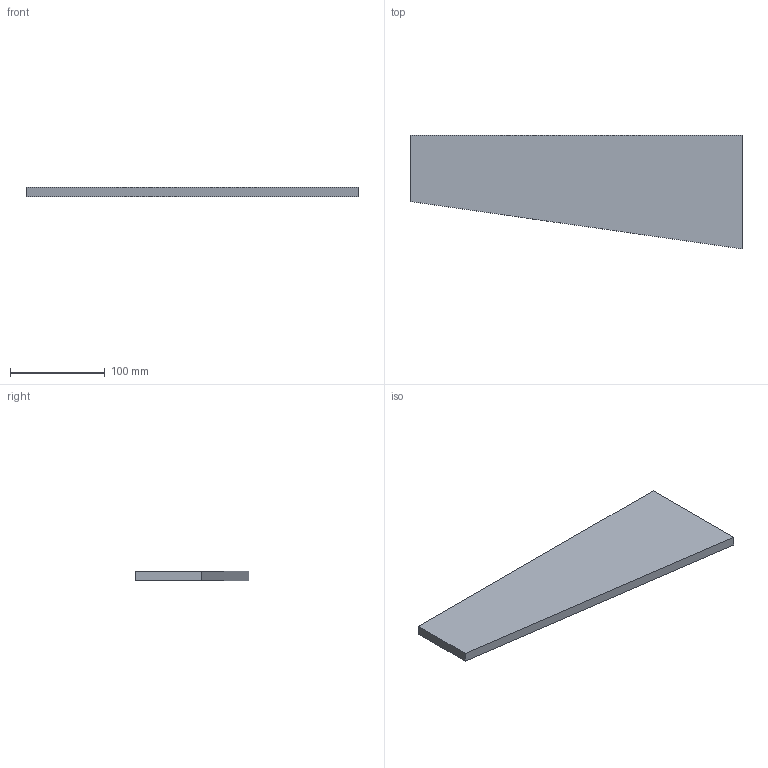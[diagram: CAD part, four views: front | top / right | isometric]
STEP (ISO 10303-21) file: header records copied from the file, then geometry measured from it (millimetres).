
FILE_DESCRIPTION (( 'STEP AP214' ), '1' );
FILE_NAME ('Legs.STEP', '2018-05-10T20:43:02', ( '' ), ( '' ), 'SwSTEP 2.0', 'SolidWorks 2015', '' );
FILE_SCHEMA (( 'AUTOMOTIVE_DESIGN' ));
Length unit declared in the file: millimetre
Products named in the file (1): Legs
Bounding box: 350 x 120 x 10 mm (x, y, z)
Volume: 332500 mm3; surface area: 75435.5 mm2
Topology: 1 solids, 1 shells, 6 faces, 12 edges, 8 vertices
Faces by surface type: plane 6
Entity records: 190 total; most frequent: CARTESIAN_POINT 27, DIRECTION 26, ORIENTED_EDGE 24, EDGE_CURVE 12, LINE 12, VECTOR 12, VERTEX_POINT 8, AXIS2_PLACEMENT_3D 7
